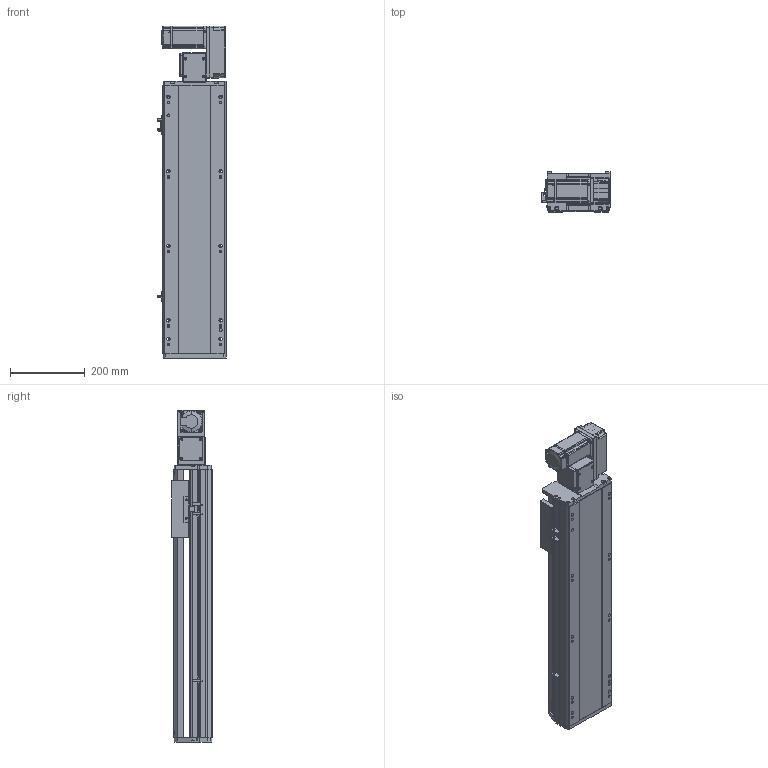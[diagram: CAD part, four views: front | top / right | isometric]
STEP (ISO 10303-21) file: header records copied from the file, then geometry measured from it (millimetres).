
FILE_DESCRIPTION (( 'STEP AP214' ), '1' );
FILE_NAME ('RTB17S-XX-450-R-M40-C4.STEP', '2025-12-11T07:33:29', ( '' ), ( '' ), 'SwSTEP 2.0', 'SolidWorks 2018', '' );
FILE_SCHEMA (( 'AUTOMOTIVE_DESIGN' ));
Length unit declared in the file: millimetre
Products named in the file (14): RTB17S-R-々湍釱蚾饜-400W^RTB17S-XX-XX-R-M40-C4; RTB17S-L-001耜醱啣^RTB17S-XX-XX-R-M40-C4; RTB17S-L-007奻裔^RTB17S-XX-XX-R-M40-C4; RTB17S-L-004佪裝蹟譫蟀諉釱^RTB17S-XX-XX-R-M40-C4; RTB14-L-018P^RTB17S-R-々湍釱蚾饜-400W_RTB17S-XX-XX-R-M40-C4; 400W侜督萇儂^RTB17S-XX-XX-R-M40-C4; RTB17-R-011菁釱^RTB17S-XX-XX-R-M40-C4; RTB17S-XX-450-R-M40-C4; RTB17S-L-014-T20--々湍釱^RTB17S-R-々湍釱蚾饜-400W_RTB17S-XX-XX-R-M40-C4; RTH13-BL-012覜茼え俋离^RTB17S-XX-XX-R-M40-C4; RTB14-L-008-M20--萇儂啣^RTB17S-R-々湍釱蚾饜-400W_RTB17S-XX-XX-R-M40-C4; RTB14-L-005P--轴承塑胶压盖^RTB17S-R-皮带座装配-400W_RTB17S-XX-XX-R-M40-C4; RTB14-L-017P^RTB17S-R-々湍釱蚾饜-400W_RTB17S-XX-XX-R-M40-C4; OMRON EE-SX672 传感器^RTB17S-XX-XX-R-M40-C4
Assembly tree (16 placements, depth 3):
  RTB17S-XX-450-R-M40-C4
    RTB17-R-011菁釱^RTB17S-XX-XX-R-M40-C4
    RTB17S-L-007奻裔^RTB17S-XX-XX-R-M40-C4
    OMRON EE-SX672 传感器^RTB17S-XX-XX-R-M40-C4  x3
    RTB17S-L-001耜醱啣^RTB17S-XX-XX-R-M40-C4
    400W侜督萇儂^RTB17S-XX-XX-R-M40-C4
    RTB17S-L-004佪裝蹟譫蟀諉釱^RTB17S-XX-XX-R-M40-C4
    RTH13-BL-012覜茼え俋离^RTB17S-XX-XX-R-M40-C4
    RTB17S-R-々湍釱蚾饜-400W^RTB17S-XX-XX-R-M40-C4
      RTB17S-L-014-T20--々湍釱^RTB17S-R-々湍釱蚾饜-400W_RTB17S-XX-XX-R-M40-C4
      RTB14-L-005P--轴承塑胶压盖^RTB17S-R-皮带座装配-400W_RTB17S-XX-XX-R-M40-C4
      RTB14-L-008-M20--萇儂啣^RTB17S-R-々湍釱蚾饜-400W_RTB17S-XX-XX-R-M40-C4
      RTB14-L-017P^RTB17S-R-々湍釱蚾饜-400W_RTB17S-XX-XX-R-M40-C4  x2
      RTB14-L-018P^RTB17S-R-々湍釱蚾饜-400W_RTB17S-XX-XX-R-M40-C4
Bounding box: 183.5 x 108 x 891 mm (x, y, z)
Volume: 7883927 mm3; surface area: 1010753.2 mm2
Topology: 15 solids, 15 shells, 2173 faces, 5979 edges, 3897 vertices
Faces by surface type: plane 1064, cylinder 661, bspline 301, cone 139, torus 8
Entity records: 61097 total; most frequent: CARTESIAN_POINT 16984, ORIENTED_EDGE 8802, DIRECTION 8216, EDGE_CURVE 4401, VERTEX_POINT 2885, AXIS2_PLACEMENT_3D 2815, LINE 2586, VECTOR 2586
